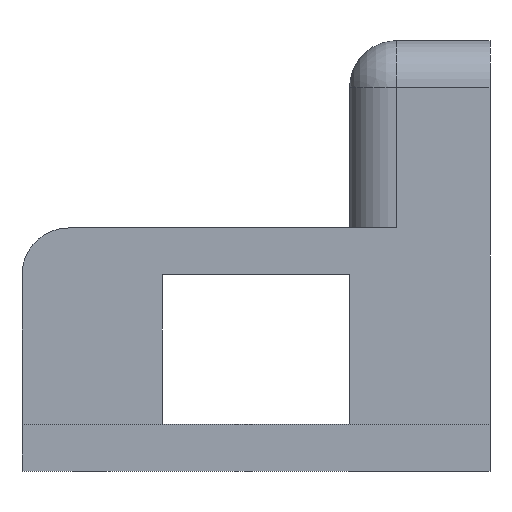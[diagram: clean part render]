
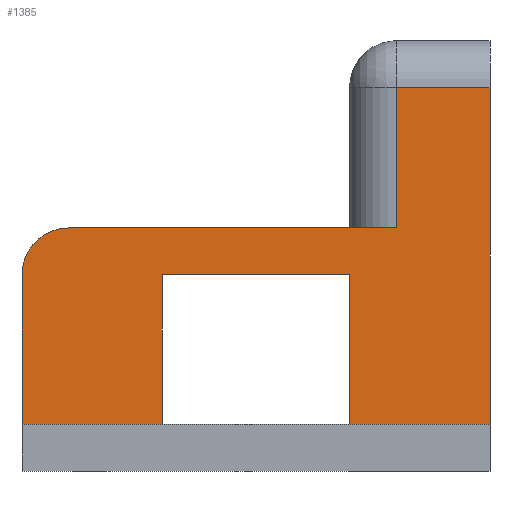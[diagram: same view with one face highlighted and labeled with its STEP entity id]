
A CAD part, front view. The second image highlights one B-rep face of the part: STEP entity #1385.
In plain terms, the highlighted planar face has unit normal (0, -1, 0).
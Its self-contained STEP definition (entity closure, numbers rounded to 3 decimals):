
#224=CARTESIAN_POINT('Vertex',(15.,0.,-25.)) ;
#227=CARTESIAN_POINT('Line Origine',(15.,0.,-33.)) ;
#231=CARTESIAN_POINT('Vertex',(15.,0.,-41.)) ;
#372=CARTESIAN_POINT('Axis2P3D Location',(0.,0.,0.)) ;
#388=CARTESIAN_POINT('Vertex',(35.,0.,-41.)) ;
#415=CARTESIAN_POINT('Line Origine',(35.,0.,-33.)) ;
#419=CARTESIAN_POINT('Vertex',(35.,0.,-25.)) ;
#959=CARTESIAN_POINT('Vertex',(0.,0.,-41.)) ;
#966=CARTESIAN_POINT('Vertex',(50.,0.,-41.)) ;
#969=CARTESIAN_POINT('Line Origine',(42.5,0.,-41.)) ;
#974=CARTESIAN_POINT('Line Origine',(7.5,0.,-41.)) ;
#1078=CARTESIAN_POINT('Vertex',(50.,0.,-5.)) ;
#1081=CARTESIAN_POINT('Line Origine',(50.,0.,-23.)) ;
#1142=CARTESIAN_POINT('Line Origine',(25.,0.,-25.)) ;
#1173=CARTESIAN_POINT('Vertex',(0.,0.,-25.)) ;
#1181=CARTESIAN_POINT('Line Origine',(0.,0.,-33.)) ;
#1229=CARTESIAN_POINT('Vertex',(5.,0.,-20.)) ;
#1232=CARTESIAN_POINT('Line Origine',(22.5,0.,-20.)) ;
#1236=CARTESIAN_POINT('Vertex',(40.,0.,-20.)) ;
#1293=CARTESIAN_POINT('Line Origine',(25.,0.,-5.)) ;
#1297=CARTESIAN_POINT('Vertex',(40.,0.,-5.)) ;
#1362=CARTESIAN_POINT('Axis2P3D Location',(5.,0.,-25.)) ;
#1367=CARTESIAN_POINT('Line Origine',(40.,0.,-12.5)) ;
#228=DIRECTION('Vector Direction',(0.,0.,-1.)) ;
#373=DIRECTION('Axis2P3D Direction',(0.,-1.,0.)) ;
#374=DIRECTION('Axis2P3D XDirection',(0.,0.,-1.)) ;
#416=DIRECTION('Vector Direction',(0.,0.,-1.)) ;
#970=DIRECTION('Vector Direction',(-1.,0.,0.)) ;
#975=DIRECTION('Vector Direction',(-1.,0.,0.)) ;
#1082=DIRECTION('Vector Direction',(0.,0.,-1.)) ;
#1143=DIRECTION('Vector Direction',(-1.,0.,0.)) ;
#1182=DIRECTION('Vector Direction',(0.,0.,-1.)) ;
#1233=DIRECTION('Vector Direction',(-1.,0.,0.)) ;
#1294=DIRECTION('Vector Direction',(1.,0.,0.)) ;
#1363=DIRECTION('Axis2P3D Direction',(0.,-1.,0.)) ;
#1368=DIRECTION('Vector Direction',(0.,0.,-1.)) ;
#375=AXIS2_PLACEMENT_3D('Plane Axis2P3D',#372,#373,#374) ;
#1364=AXIS2_PLACEMENT_3D('Circle Axis2P3D',#1362,#1363,$) ;
#1373=ORIENTED_EDGE('',*,*,#1238,.F.) ;
#1374=ORIENTED_EDGE('',*,*,#1366,.F.) ;
#1375=ORIENTED_EDGE('',*,*,#1185,.T.) ;
#1376=ORIENTED_EDGE('',*,*,#978,.F.) ;
#1377=ORIENTED_EDGE('',*,*,#233,.F.) ;
#1378=ORIENTED_EDGE('',*,*,#1146,.F.) ;
#1379=ORIENTED_EDGE('',*,*,#421,.T.) ;
#1380=ORIENTED_EDGE('',*,*,#973,.F.) ;
#1381=ORIENTED_EDGE('',*,*,#1085,.F.) ;
#1382=ORIENTED_EDGE('',*,*,#1299,.F.) ;
#1383=ORIENTED_EDGE('',*,*,#1371,.F.) ;
#229=VECTOR('Line Direction',#228,1.) ;
#417=VECTOR('Line Direction',#416,1.) ;
#971=VECTOR('Line Direction',#970,1.) ;
#976=VECTOR('Line Direction',#975,1.) ;
#1083=VECTOR('Line Direction',#1082,1.) ;
#1144=VECTOR('Line Direction',#1143,1.) ;
#1183=VECTOR('Line Direction',#1182,1.) ;
#1234=VECTOR('Line Direction',#1233,1.) ;
#1295=VECTOR('Line Direction',#1294,1.) ;
#1369=VECTOR('Line Direction',#1368,1.) ;
#1385=ADVANCED_FACE('Hauptk\X2\00F6\X0\rper',(#1384),#376,.T.) ;
#1365=CIRCLE('generated circle',#1364,5.) ;
#233=EDGE_CURVE('',#225,#232,#230,.T.) ;
#421=EDGE_CURVE('',#420,#389,#418,.T.) ;
#973=EDGE_CURVE('',#967,#389,#972,.T.) ;
#978=EDGE_CURVE('',#232,#960,#977,.T.) ;
#1085=EDGE_CURVE('',#1079,#967,#1084,.T.) ;
#1146=EDGE_CURVE('',#420,#225,#1145,.T.) ;
#1185=EDGE_CURVE('',#1174,#960,#1184,.T.) ;
#1238=EDGE_CURVE('',#1230,#1237,#1235,.F.) ;
#1299=EDGE_CURVE('',#1298,#1079,#1296,.T.) ;
#1366=EDGE_CURVE('',#1174,#1230,#1365,.F.) ;
#1371=EDGE_CURVE('',#1237,#1298,#1370,.F.) ;
#1372=EDGE_LOOP('',(#1373,#1374,#1375,#1376,#1377,#1378,#1379,#1380,#1381,#1382,#1383)) ;
#1384=FACE_OUTER_BOUND('',#1372,.T.) ;
#230=LINE('Line',#227,#229) ;
#418=LINE('Line',#415,#417) ;
#972=LINE('Line',#969,#971) ;
#977=LINE('Line',#974,#976) ;
#1084=LINE('Line',#1081,#1083) ;
#1145=LINE('Line',#1142,#1144) ;
#1184=LINE('Line',#1181,#1183) ;
#1235=LINE('Line',#1232,#1234) ;
#1296=LINE('Line',#1293,#1295) ;
#1370=LINE('Line',#1367,#1369) ;
#376=PLANE('',#375) ;
#225=VERTEX_POINT('',#224) ;
#232=VERTEX_POINT('',#231) ;
#389=VERTEX_POINT('',#388) ;
#420=VERTEX_POINT('',#419) ;
#960=VERTEX_POINT('',#959) ;
#967=VERTEX_POINT('',#966) ;
#1079=VERTEX_POINT('',#1078) ;
#1174=VERTEX_POINT('',#1173) ;
#1230=VERTEX_POINT('',#1229) ;
#1237=VERTEX_POINT('',#1236) ;
#1298=VERTEX_POINT('',#1297) ;
